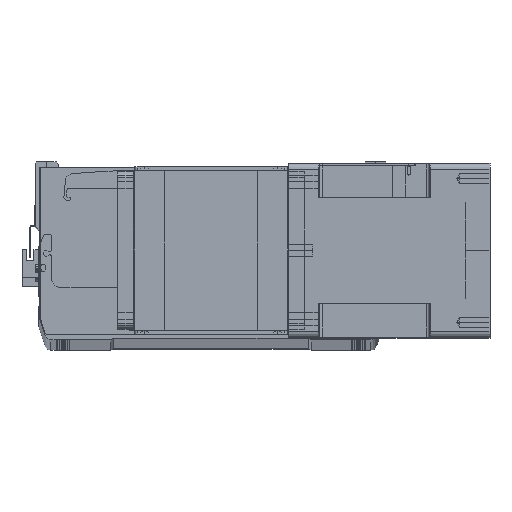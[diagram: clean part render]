
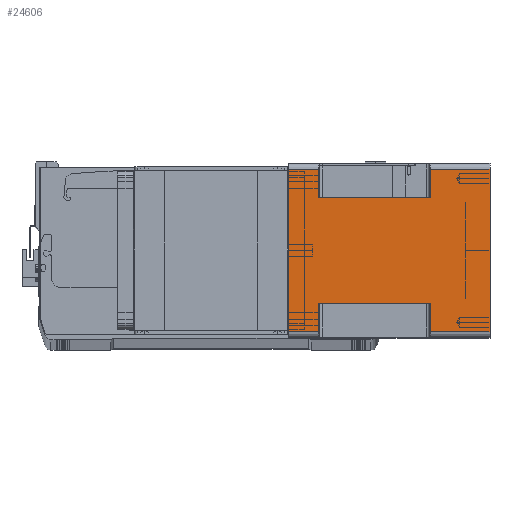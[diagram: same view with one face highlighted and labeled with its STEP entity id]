
A CAD part, top view. The second image highlights one B-rep face of the part: STEP entity #24606.
In plain terms, the highlighted planar face has unit normal (0, 0, 1) as drawn and (1, 0, 0) by its records, which use the part's own axes.
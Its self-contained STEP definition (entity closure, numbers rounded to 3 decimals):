
#487 = VERTEX_POINT ( 'NONE', #21839 ) ;
#819 = ORIENTED_EDGE ( 'NONE', *, *, #39318, .F. ) ;
#1078 = LINE ( 'NONE', #28059, #31160 ) ;
#1782 = VECTOR ( 'NONE', #14634, 1000. ) ;
#1979 = EDGE_CURVE ( 'NONE', #20346, #14957, #11488, .T. ) ;
#2405 = CARTESIAN_POINT ( 'NONE',  ( 71., -66., -164. ) ) ;
#2581 = ORIENTED_EDGE ( 'NONE', *, *, #16440, .F. ) ;
#3732 = CARTESIAN_POINT ( 'NONE',  ( 71., -66., -164. ) ) ;
#3819 = ORIENTED_EDGE ( 'NONE', *, *, #1979, .T. ) ;
#4963 = DIRECTION ( 'NONE',  ( 0., 1., 0. ) ) ;
#5221 = VERTEX_POINT ( 'NONE', #18073 ) ;
#6241 = LINE ( 'NONE', #3732, #11013 ) ;
#6867 = DIRECTION ( 'NONE',  ( 0., -1., 0. ) ) ;
#8294 = CARTESIAN_POINT ( 'NONE',  ( 71., -43., -24.5 ) ) ;
#8503 = VECTOR ( 'NONE', #4963, 1000. ) ;
#8709 = LINE ( 'NONE', #17170, #12952 ) ;
#9026 = VERTEX_POINT ( 'NONE', #14061 ) ;
#9135 = EDGE_CURVE ( 'NONE', #5221, #9026, #17213, .T. ) ;
#9857 = DIRECTION ( 'NONE',  ( 0., 0., 1. ) ) ;
#10251 = VERTEX_POINT ( 'NONE', #27264 ) ;
#10374 = ORIENTED_EDGE ( 'NONE', *, *, #38787, .T. ) ;
#10455 = CARTESIAN_POINT ( 'NONE',  ( 71., 66., -115.5 ) ) ;
#11013 = VECTOR ( 'NONE', #9857, 1000. ) ;
#11488 = LINE ( 'NONE', #21842, #30637 ) ;
#11579 = DIRECTION ( 'NONE',  ( 0., 1., 0. ) ) ;
#11754 = EDGE_CURVE ( 'NONE', #37124, #20346, #8709, .T. ) ;
#12124 = DIRECTION ( 'NONE',  ( 0., 1., 0. ) ) ;
#12260 = LINE ( 'NONE', #39342, #1782 ) ;
#12952 = VECTOR ( 'NONE', #32251, 1000. ) ;
#14061 = CARTESIAN_POINT ( 'NONE',  ( 71., -43., -24.5 ) ) ;
#14158 = CARTESIAN_POINT ( 'NONE',  ( 71., -66., -115.5 ) ) ;
#14235 = CARTESIAN_POINT ( 'NONE',  ( 71., -66., -164. ) ) ;
#14634 = DIRECTION ( 'NONE',  ( 0., -1., 0. ) ) ;
#14957 = VERTEX_POINT ( 'NONE', #17815 ) ;
#15009 = ORIENTED_EDGE ( 'NONE', *, *, #17278, .T. ) ;
#15261 = VERTEX_POINT ( 'NONE', #28439 ) ;
#15354 = LINE ( 'NONE', #2405, #15850 ) ;
#15850 = VECTOR ( 'NONE', #11579, 1000. ) ;
#15939 = EDGE_CURVE ( 'NONE', #487, #14957, #17762, .T. ) ;
#16081 = DIRECTION ( 'NONE',  ( 0., 0., 1. ) ) ;
#16383 = EDGE_CURVE ( 'NONE', #37500, #23510, #18568, .T. ) ;
#16440 = EDGE_CURVE ( 'NONE', #10251, #30192, #36240, .T. ) ;
#17170 = CARTESIAN_POINT ( 'NONE',  ( 71., 66., -164. ) ) ;
#17177 = DIRECTION ( 'NONE',  ( 0., 1., 0. ) ) ;
#17213 = LINE ( 'NONE', #8294, #39153 ) ;
#17278 = EDGE_CURVE ( 'NONE', #15261, #23510, #12260, .T. ) ;
#17688 = ORIENTED_EDGE ( 'NONE', *, *, #11754, .T. ) ;
#17762 = LINE ( 'NONE', #39532, #33053 ) ;
#17815 = CARTESIAN_POINT ( 'NONE',  ( 71., 43., -115.5 ) ) ;
#18054 = PLANE ( 'NONE',  #25617 ) ;
#18073 = CARTESIAN_POINT ( 'NONE',  ( 71., -66., -24.5 ) ) ;
#18522 = DIRECTION ( 'NONE',  ( 0., 0., 1. ) ) ;
#18568 = LINE ( 'NONE', #24395, #27619 ) ;
#18646 = LINE ( 'NONE', #38291, #32023 ) ;
#19404 = EDGE_LOOP ( 'NONE', ( #34877, #15009, #38554, #27568, #17688, #3819, #29260, #37624, #10374, #2581, #819, #31492 ) ) ;
#20261 = EDGE_CURVE ( 'NONE', #487, #21191, #20475, .T. ) ;
#20346 = VERTEX_POINT ( 'NONE', #10455 ) ;
#20475 = LINE ( 'NONE', #23311, #8503 ) ;
#21191 = VERTEX_POINT ( 'NONE', #27678 ) ;
#21226 = DIRECTION ( 'NONE',  ( 1., 0., 0. ) ) ;
#21839 = CARTESIAN_POINT ( 'NONE',  ( 71., 43., -24.5 ) ) ;
#21842 = CARTESIAN_POINT ( 'NONE',  ( 71., 43., -115.5 ) ) ;
#23311 = CARTESIAN_POINT ( 'NONE',  ( 71., -66., -24.5 ) ) ;
#23510 = VERTEX_POINT ( 'NONE', #14158 ) ;
#24204 = FACE_OUTER_BOUND ( 'NONE', #19404, .T. ) ;
#24395 = CARTESIAN_POINT ( 'NONE',  ( 71., -66., -164. ) ) ;
#24606 = ADVANCED_FACE ( 'NONE', ( #24204 ), #18054, .T. ) ;
#25617 = AXIS2_PLACEMENT_3D ( 'NONE', #33010, #21226, #12124 ) ;
#25859 = DIRECTION ( 'NONE',  ( 0., 0., 1. ) ) ;
#27264 = CARTESIAN_POINT ( 'NONE',  ( 71., -66., 0. ) ) ;
#27331 = EDGE_CURVE ( 'NONE', #37500, #37124, #15354, .T. ) ;
#27568 = ORIENTED_EDGE ( 'NONE', *, *, #27331, .T. ) ;
#27619 = VECTOR ( 'NONE', #18522, 1000. ) ;
#27642 = EDGE_CURVE ( 'NONE', #15261, #9026, #18646, .T. ) ;
#27678 = CARTESIAN_POINT ( 'NONE',  ( 71., 66., -24.5 ) ) ;
#28059 = CARTESIAN_POINT ( 'NONE',  ( 71., 66., -164. ) ) ;
#28439 = CARTESIAN_POINT ( 'NONE',  ( 71., -43., -115.5 ) ) ;
#29260 = ORIENTED_EDGE ( 'NONE', *, *, #15939, .F. ) ;
#29996 = VECTOR ( 'NONE', #33766, 1000. ) ;
#30192 = VERTEX_POINT ( 'NONE', #37087 ) ;
#30637 = VECTOR ( 'NONE', #6867, 1000. ) ;
#31160 = VECTOR ( 'NONE', #16081, 1000. ) ;
#31492 = ORIENTED_EDGE ( 'NONE', *, *, #9135, .T. ) ;
#32023 = VECTOR ( 'NONE', #25859, 1000. ) ;
#32251 = DIRECTION ( 'NONE',  ( 0., 0., 1. ) ) ;
#33010 = CARTESIAN_POINT ( 'NONE',  ( 71., -66., -164. ) ) ;
#33053 = VECTOR ( 'NONE', #33686, 1000. ) ;
#33427 = CARTESIAN_POINT ( 'NONE',  ( 71., 66., -164. ) ) ;
#33686 = DIRECTION ( 'NONE',  ( 0., 0., -1. ) ) ;
#33766 = DIRECTION ( 'NONE',  ( 0., 1., 0. ) ) ;
#34877 = ORIENTED_EDGE ( 'NONE', *, *, #27642, .F. ) ;
#36240 = LINE ( 'NONE', #37089, #29996 ) ;
#37087 = CARTESIAN_POINT ( 'NONE',  ( 71., 66., 0. ) ) ;
#37089 = CARTESIAN_POINT ( 'NONE',  ( 71., -66., 0. ) ) ;
#37124 = VERTEX_POINT ( 'NONE', #33427 ) ;
#37500 = VERTEX_POINT ( 'NONE', #14235 ) ;
#37624 = ORIENTED_EDGE ( 'NONE', *, *, #20261, .T. ) ;
#38291 = CARTESIAN_POINT ( 'NONE',  ( 71., -43., -164. ) ) ;
#38554 = ORIENTED_EDGE ( 'NONE', *, *, #16383, .F. ) ;
#38787 = EDGE_CURVE ( 'NONE', #21191, #30192, #1078, .T. ) ;
#39153 = VECTOR ( 'NONE', #17177, 1000. ) ;
#39318 = EDGE_CURVE ( 'NONE', #5221, #10251, #6241, .T. ) ;
#39342 = CARTESIAN_POINT ( 'NONE',  ( 71., -66., -115.5 ) ) ;
#39532 = CARTESIAN_POINT ( 'NONE',  ( 71., 43., -164. ) ) ;
